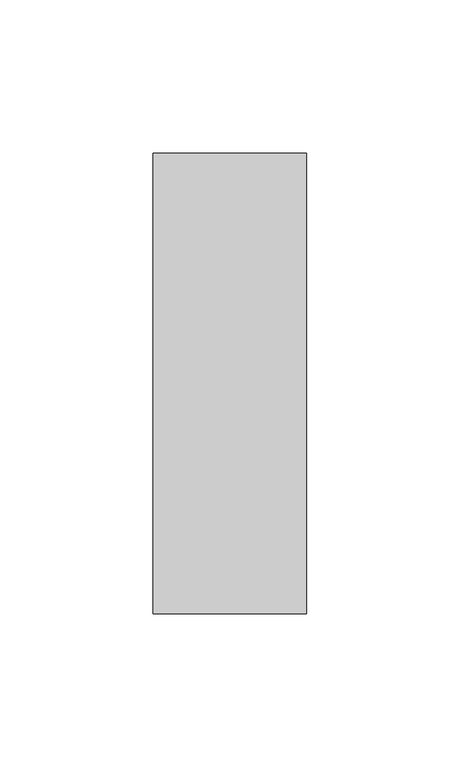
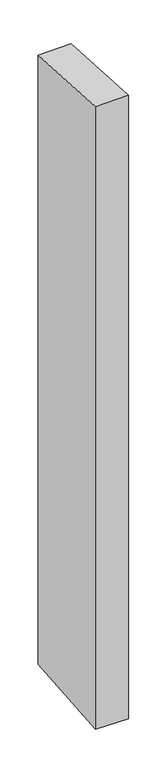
"""IFC4 building model written with IfcOpenShell, lengths in millimetres: member geometry, Прямоугольный импост : 50 x 150 мм."""

from ifc_helpers import new_model, si_unit, origin, place, context, project, spatial, faceted_brep, source, transform, mapped, element, save


def member_deaf62bb(model_context):
    return source(origin(), model_context, "Body", "Brep", [
        faceted_brep([(-25.0, 75.0, -4.5936218), (25.0, 75.0, -4.1426283), (25.0, 75.0, -976.6514423), (-25.0, 75.0, -976.2267374), (-25.0, -75.0, 4.1426283), (-25.0, -75.0, -989.0751266), (25.0, -75.0, 4.5936218), (25.0, -75.0, -989.4998315)], [[[0, 1, 2, 3]], [[4, 0, 3, 5]], [[6, 4, 5, 7]], [[1, 6, 7, 2]], [[1, 0, 4, 6]], [[2, 7, 5, 3]]]),
    ])


if __name__ == "__main__":
    model = new_model("IFC4")
    model_context = context("Model", 3, world=origin())
    ifc_project = project(units=[si_unit("LENGTHUNIT", "METRE", prefix="MILLI")], contexts=[model_context])
    site = spatial("IfcSite", under=ifc_project)
    building = spatial("IfcBuilding", under=site)
    placement = place(None, origin())
    member_shape = member_deaf62bb(model_context)
    element("IfcMember", 1, ObjectType="Прямоугольный импост : 50 x 150 мм", at=placement, inside=building, context=model_context, shape_type="MappedRepresentation", body=[
        mapped(member_shape, transform((0.0, 0.0, 0.0), x_axis=(1.0, 0.0, 0.0), y_axis=(0.0, 1.0, 0.0), z_axis=(0.0, 0.0, 1.0))),
    ])
    save(model, "model.ifc")
